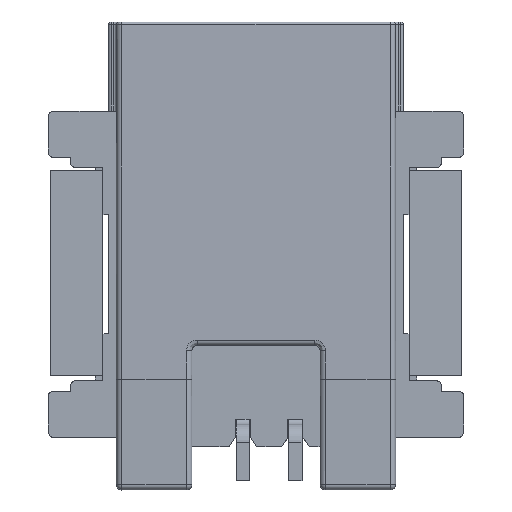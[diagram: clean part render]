
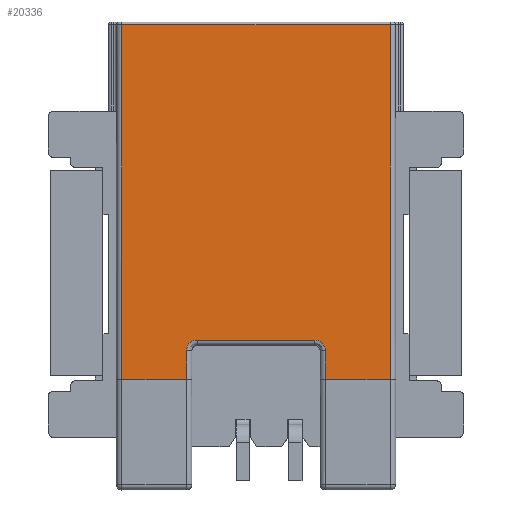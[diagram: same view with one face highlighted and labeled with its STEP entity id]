
A CAD part, front view. The second image highlights one B-rep face of the part: STEP entity #20336.
In plain terms, the highlighted planar face has unit normal (0, -1, 0.004).
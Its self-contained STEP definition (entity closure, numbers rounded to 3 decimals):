
#2985=DIRECTION('',(1.,0.,0.));
#2986=VECTOR('',#2985,10.22);
#2987=CARTESIAN_POINT('',(-5.11,-0.862,
-0.1));
#2988=LINE('',#2987,#2986);
#3810=DIRECTION('',(0.,-0.004,-1.));
#3811=VECTOR('',#3810,13.501);
#3812=CARTESIAN_POINT('',(5.11,-0.862,
-0.1));
#3813=LINE('',#3812,#3811);
#5867=DIRECTION('',(0.,0.004,1.));
#5868=VECTOR('',#5867,13.501);
#5869=CARTESIAN_POINT('',(-5.11,-0.921,
-13.6));
#5870=LINE('',#5869,#5868);
#5885=DIRECTION('',(1.,0.,0.));
#5886=VECTOR('',#5885,2.47);
#5887=CARTESIAN_POINT('',(2.64,-0.921,
-13.6));
#5888=LINE('',#5887,#5886);
#5889=CARTESIAN_POINT('',(2.24,-0.914,
-12.099));
#5890=CARTESIAN_POINT('',(2.276,-0.914,
-12.099));
#5891=CARTESIAN_POINT('',(2.345,-0.914,
-12.108));
#5892=CARTESIAN_POINT('',(2.443,-0.915,
-12.149));
#5893=CARTESIAN_POINT('',(2.526,-0.915,
-12.213));
#5894=CARTESIAN_POINT('',(2.59,-0.915,
-12.297));
#5895=CARTESIAN_POINT('',(2.631,-0.916,
-12.394));
#5896=CARTESIAN_POINT('',(2.64,-0.916,
-12.463));
#5897=CARTESIAN_POINT('',(2.64,-0.916,
-12.499));
#5899=CARTESIAN_POINT('',(-2.64,-0.916,
-12.499));
#5900=CARTESIAN_POINT('',(-2.64,-0.916,
-12.463));
#5901=CARTESIAN_POINT('',(-2.631,-0.916,
-12.394));
#5902=CARTESIAN_POINT('',(-2.59,-0.915,
-12.297));
#5903=CARTESIAN_POINT('',(-2.526,-0.915,
-12.213));
#5904=CARTESIAN_POINT('',(-2.443,-0.915,
-12.149));
#5905=CARTESIAN_POINT('',(-2.345,-0.914,
-12.108));
#5906=CARTESIAN_POINT('',(-2.276,-0.914,
-12.099));
#5907=CARTESIAN_POINT('',(-2.24,-0.914,
-12.099));
#5909=DIRECTION('',(1.,0.,0.));
#5910=VECTOR('',#5909,2.47);
#5911=CARTESIAN_POINT('',(-5.11,-0.921,
-13.6));
#5912=LINE('',#5911,#5910);
#5949=DIRECTION('',(0.,0.004,1.));
#5950=VECTOR('',#5949,1.101);
#5951=CARTESIAN_POINT('',(2.64,-0.921,
-13.6));
#5952=LINE('',#5951,#5950);
#5967=DIRECTION('',(-1.,0.,0.));
#5968=VECTOR('',#5967,4.48);
#5969=CARTESIAN_POINT('',(2.24,-0.914,
-12.099));
#5970=LINE('',#5969,#5968);
#5994=DIRECTION('',(0.,-0.004,-1.));
#5995=VECTOR('',#5994,1.101);
#5996=CARTESIAN_POINT('',(-2.64,-0.916,
-12.499));
#5997=LINE('',#5996,#5995);
#10089=CARTESIAN_POINT('',(5.11,-0.921,
-13.6));
#10090=VERTEX_POINT('',#10089);
#10091=CARTESIAN_POINT('',(2.64,-0.921,
-13.6));
#10092=VERTEX_POINT('',#10091);
#10097=CARTESIAN_POINT('',(-2.64,-0.921,
-13.6));
#10098=VERTEX_POINT('',#10097);
#10099=CARTESIAN_POINT('',(-5.11,-0.921,
-13.6));
#10100=VERTEX_POINT('',#10099);
#10194=CARTESIAN_POINT('',(5.11,-0.862,
-0.1));
#10195=VERTEX_POINT('',#10194);
#10196=CARTESIAN_POINT('',(-5.11,-0.862,
-0.1));
#10197=VERTEX_POINT('',#10196);
#10198=CARTESIAN_POINT('',(-2.64,-0.916,
-12.499));
#10199=VERTEX_POINT('',#10198);
#10200=VERTEX_POINT('',#5907);
#10201=CARTESIAN_POINT('',(2.24,-0.914,
-12.099));
#10202=VERTEX_POINT('',#10201);
#10203=VERTEX_POINT('',#5897);
#20312=CARTESIAN_POINT('',(-6.605,-0.921,
-13.6));
#20313=DIRECTION('',(0.,-1.,0.004));
#20314=DIRECTION('',(0.,-0.004,-1.));
#20315=AXIS2_PLACEMENT_3D('',#20312,#20313,#20314);
#20316=PLANE('',#20315);
#20317=ORIENTED_EDGE('',*,*,#17438,.T.);
#20319=ORIENTED_EDGE('',*,*,#20318,.F.);
#20321=ORIENTED_EDGE('',*,*,#20320,.T.);
#20323=ORIENTED_EDGE('',*,*,#20322,.F.);
#20325=ORIENTED_EDGE('',*,*,#20324,.T.);
#20327=ORIENTED_EDGE('',*,*,#20326,.F.);
#20329=ORIENTED_EDGE('',*,*,#20328,.T.);
#20331=ORIENTED_EDGE('',*,*,#20330,.F.);
#20332=ORIENTED_EDGE('',*,*,#20303,.T.);
#20333=ORIENTED_EDGE('',*,*,#16327,.T.);
#20334=EDGE_LOOP('',(#20317,#20319,#20321,#20323,#20325,#20327,#20329,#20331,
#20332,#20333));
#20335=FACE_OUTER_BOUND('',#20334,.F.);
#20336=ADVANCED_FACE('',(#20335),#20316,.T.);
#5898=B_SPLINE_CURVE_WITH_KNOTS('',3,(#5889,#5890,#5891,#5892,#5893,#5894,#5895,
#5896,#5897),.UNSPECIFIED.,.F.,.F.,(4,1,1,1,1,1,4),(0.,0.167,
0.333,0.5,0.667,0.833,1.),
.UNSPECIFIED.);
#5908=B_SPLINE_CURVE_WITH_KNOTS('',3,(#5899,#5900,#5901,#5902,#5903,#5904,#5905,
#5906,#5907),.UNSPECIFIED.,.F.,.F.,(4,1,1,1,1,1,4),(0.,0.167,
0.333,0.5,0.667,0.833,1.),
.UNSPECIFIED.);
#16327=EDGE_CURVE('',#10197,#10195,#2988,.T.);
#17438=EDGE_CURVE('',#10195,#10090,#3813,.T.);
#20303=EDGE_CURVE('',#10100,#10197,#5870,.T.);
#20318=EDGE_CURVE('',#10092,#10090,#5888,.T.);
#20320=EDGE_CURVE('',#10092,#10203,#5952,.T.);
#20322=EDGE_CURVE('',#10202,#10203,#5898,.T.);
#20324=EDGE_CURVE('',#10202,#10200,#5970,.T.);
#20326=EDGE_CURVE('',#10199,#10200,#5908,.T.);
#20328=EDGE_CURVE('',#10199,#10098,#5997,.T.);
#20330=EDGE_CURVE('',#10100,#10098,#5912,.T.);
